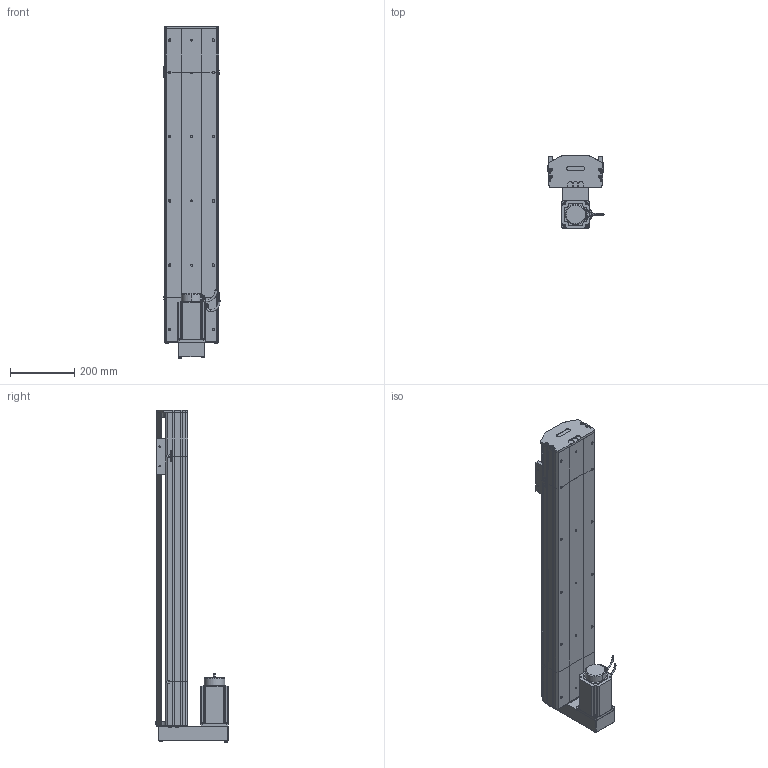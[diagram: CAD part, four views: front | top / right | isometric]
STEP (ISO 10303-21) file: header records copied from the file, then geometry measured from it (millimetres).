
FILE_DESCRIPTION (( 'STEP AP214' ), '1' );
FILE_NAME ('D17 TSN BM S700.STEP', '2010-06-30T07:39:28', ( 'Christophe Gaillard' ), ( 'SGA' ), 'SwSTEP 2.0', 'SolidWorks 2010', '' );
FILE_SCHEMA (( 'AUTOMOTIVE_DESIGN' ));
Length unit declared in the file: millimetre
Products named in the file (33): couvercle D17_Default; couvercle D17 head_Default; corpl head D17 BM_Default; head BM_Default; vis M5 L25_Default; vis M5 L8 90°_Default; Arbre+rail tail D17; tete d''axe haut D17; tete d''axe bas D17; plaque de  bout tail D17_Default; guide D17; Chariot D17 TBN; chariot D17 TSN; vis M5 L12_Default; renvoi Bm_Default; Cvis M5 L70_Default; Vis M5 L16-2_Default; Conecteur_Default; Conecteur2_Default; Moteur motionking 90BLDC125A-640; vis M5 L5_Default; Arbre+rail head D17; codeur 90BLDC125-640; corps 90BLDC125A-640; avant 90BLDC125A-640; plaque de  bout BM head D17_Default; D17  TSN BM S700; corp D17 700_Default; arbre + rail D17 Course 700 ; course 700 D17_Default; corpl tail D17+L100_Default; Tail D17+L100_Default; couvercle D17 course L700_Default
Assembly tree (51 placements, depth 4):
  D17  TSN BM S700
    course 700 D17_Default
      corp D17 700_Default
      arbre + rail D17 Course 700 
      couvercle D17 course L700_Default
    Tail D17+L100_Default
      corpl tail D17+L100_Default
      vis M5 L12_Default  x4
      vis M5 L8 90°_Default  x2
      vis M5 L25_Default  x2
      tete d''axe bas D17
      couvercle D17_Default
      Arbre+rail tail D17
      tete d''axe haut D17
      plaque de  bout tail D17_Default
    head BM_Default
      Cvis M5 L70_Default  x2
      Vis M5 L16-2_Default  x4
      vis M5 L12_Default  x8
      Moteur motionking 90BLDC125A-640
        avant 90BLDC125A-640
        corps 90BLDC125A-640
        Conecteur2_Default
        codeur 90BLDC125-640
        Conecteur_Default
      vis M5 L5_Default  x2
      plaque de  bout BM head D17_Default
      corpl head D17 BM_Default
      renvoi Bm_Default
      couvercle D17 head_Default
      Arbre+rail head D17
    chariot D17 TSN
      Chariot D17 TBN
      guide D17  x2
Bounding box: 174.95 x 225.7 x 1032.7 mm (x, y, z)
Volume: 7062893.8 mm3; surface area: 1782106.2 mm2
Topology: 75 solids, 75 shells, 2131 faces, 5404 edges, 3494 vertices
Faces by surface type: plane 1326, cylinder 544, bspline 136, torus 65, cone 56, sphere 4
Entity records: 71437 total; most frequent: CARTESIAN_POINT 22581, ORIENTED_EDGE 8716, DIRECTION 8123, EDGE_CURVE 4358, VECTOR 3039, LINE 3039, VERTEX_POINT 2860, AXIS2_PLACEMENT_3D 2542
